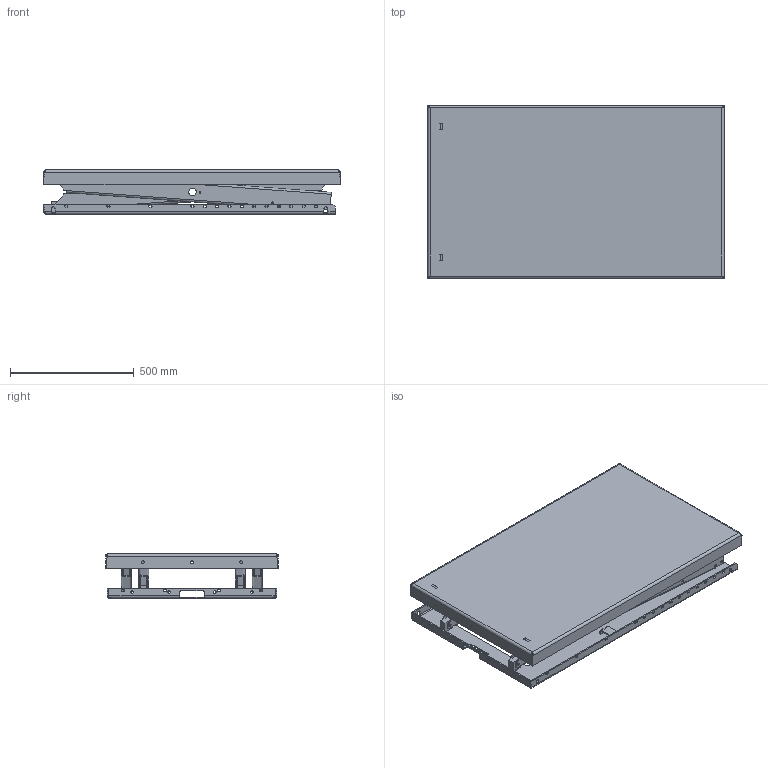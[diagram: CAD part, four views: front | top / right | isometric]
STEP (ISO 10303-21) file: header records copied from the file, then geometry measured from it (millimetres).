
FILE_DESCRIPTION(/* description */ ('TL 1001'),/* implementation_level */ '2;1');
FILE_NAME(/* name */ 'C:\Autodesk_VaultWork\Ritningar\30000-39999\33000-33999\33022_Collapsed.stp',/* time_stamp */ '2019-10-01T11:29:52+02:00',/* author */ ('johso'),/* organization */ (''),/* preprocessor_version */ 'ST-DEVELOPER v16.5',/* originating_system */ 'Autodesk Inventor 2017',/* authorisation */ '');
FILE_SCHEMA (('AUTOMOTIVE_DESIGN { 1 0 10303 214 3 1 1 }'));
Length unit declared in the file: millimetre
Products named in the file (17): 33022.tmp; 34840; 34840-1; 44681; 34977; 43785; 32903; 34827; 34815; 34816; 33023; 36465; 45258; 42394; 83212; 70015; 42513
Assembly tree (26 placements, depth 4):
  33022.tmp
    34840
      34840-1
      45258  x2
      44681  x2
    34977
      43785
      32903
        34827  x2
      34815
        34816  x2
    33023
      36465
      45258  x2
      42394  x2
      83212  x4
    70015
    42513
Bounding box: 1200.1 x 700 x 180 mm (x, y, z)
Volume: 11536417.5 mm3; surface area: 5048816.2 mm2
Topology: 20 solids, 20 shells, 1012 faces, 2785 edges, 1818 vertices
Faces by surface type: plane 559, cylinder 372, bspline 44, cone 37
Full cylindrical faces by diameter (mm): 6.8 x4, 7.4 x6, 8 x4, 10 x4, 10.2 x16, 10.5 x4, 11 x1, 11.63 x4, 12.5 x6, 13 x6, 16 x1, 20 x1, 20.1 x4, 25 x1, 30.2 x4, 42.8 x4
Entity records: 29712 total; most frequent: CARTESIAN_POINT 9342, ORIENTED_EDGE 4176, DIRECTION 3996, EDGE_CURVE 2088, LINE 1420, VECTOR 1420, VERTEX_POINT 1392, AXIS2_PLACEMENT_3D 1288
